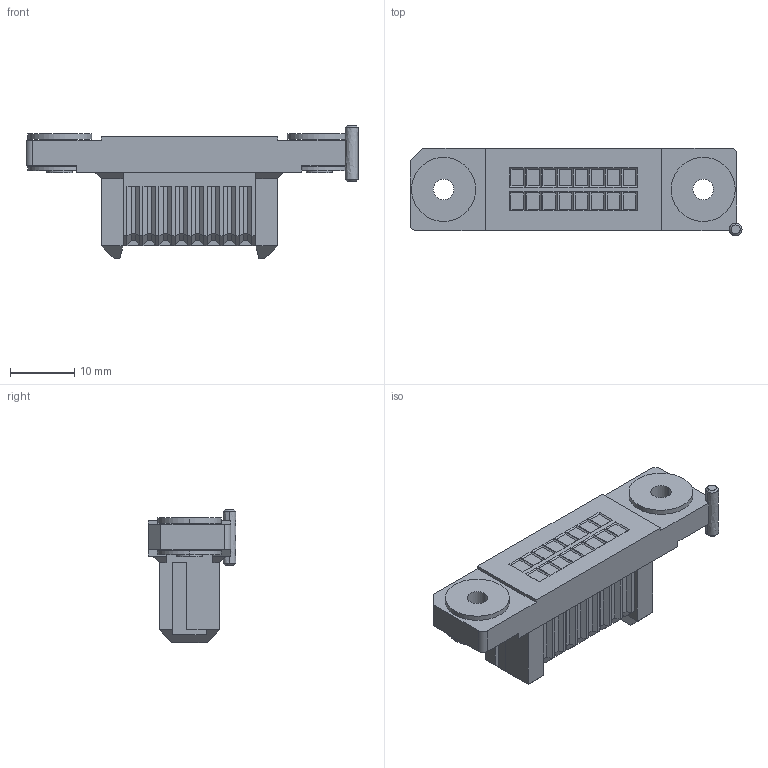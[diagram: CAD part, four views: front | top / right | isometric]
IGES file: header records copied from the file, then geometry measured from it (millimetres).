
Start section: Elysium IGES Interface
Bounding box: 51.8 x 13.7 x 20.8 mm (x, y, z)
Volume: 5805.9 mm3; surface area: 3757.5 mm2
Topology: 1 solids, 1 shells, 383 faces, 911 edges, 556 vertices
Faces by surface type: bspline 383
